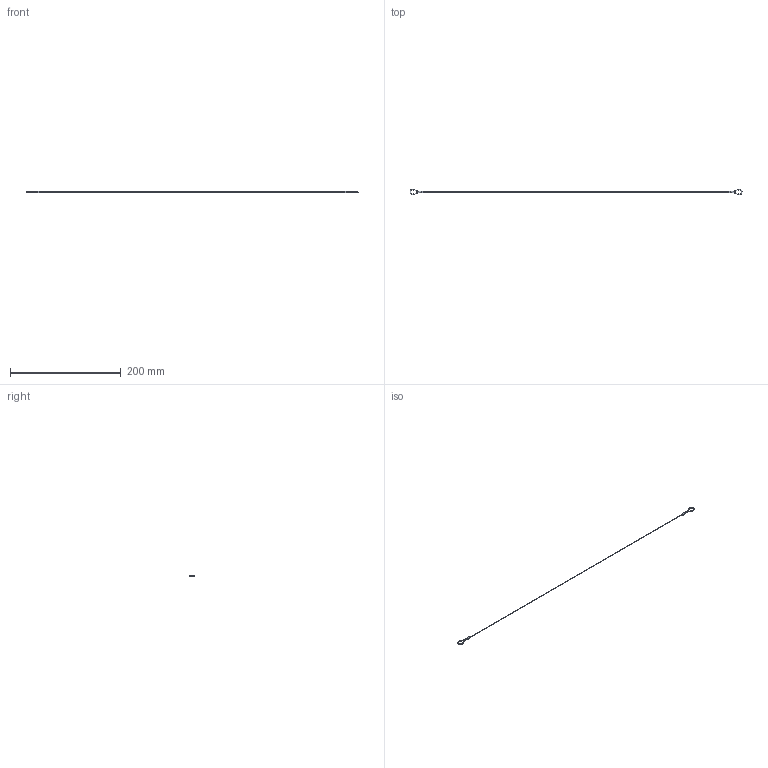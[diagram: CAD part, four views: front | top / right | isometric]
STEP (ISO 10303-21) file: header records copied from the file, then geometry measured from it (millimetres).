
FILE_DESCRIPTION (( 'STEP AP203' ), '1' );
FILE_NAME ('EB-935-12.STEP', '2013-08-12T06:35:07', ( 'SDS' ), ( 'SDS' ), 'SwSTEP 2.0', 'SolidWorks 2002296', '' );
FILE_SCHEMA (( 'CONFIG_CONTROL_DESIGN' ));
Length unit declared in the file: millimetre
Products named in the file (1): EB-935-12
Bounding box: 599.99 x 10.12 x 2.5 mm (x, y, z)
Surface area: 2180.4 mm2 (no closed solid volume)
Topology: 0 solids, 2 shells, 29 faces, 66 edges, 38 vertices
Faces by surface type: bspline 16, plane 11, cylinder 2
Entity records: 1294 total; most frequent: CARTESIAN_POINT 626, ORIENTED_EDGE 124, DIRECTION 118, EDGE_CURVE 66, AXIS2_PLACEMENT_3D 46, VERTEX_POINT 38, EDGE_LOOP 32, CIRCLE 32
